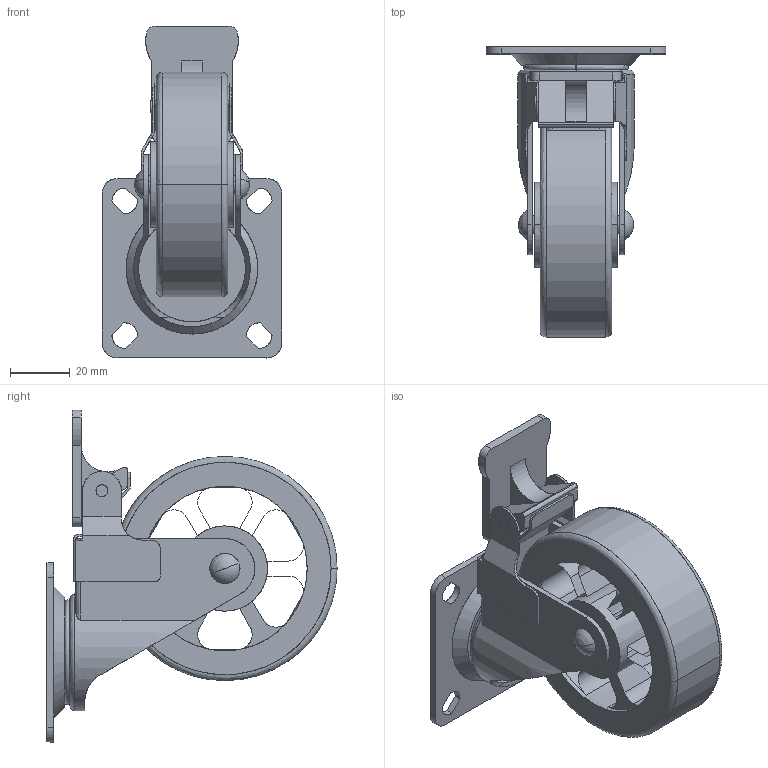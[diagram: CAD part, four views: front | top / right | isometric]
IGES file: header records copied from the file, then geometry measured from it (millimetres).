
Start section: SolidWorks IGES file using analytic representation for surfaces
Bounding box: 60 x 97 x 111 mm (x, y, z)
Surface area: 50671.3 mm2 (no closed solid volume)
Topology: 0 solids, 0 shells, 216 faces, 3606 edges, 3603 vertices
Faces by surface type: bspline 116, revolution 100
